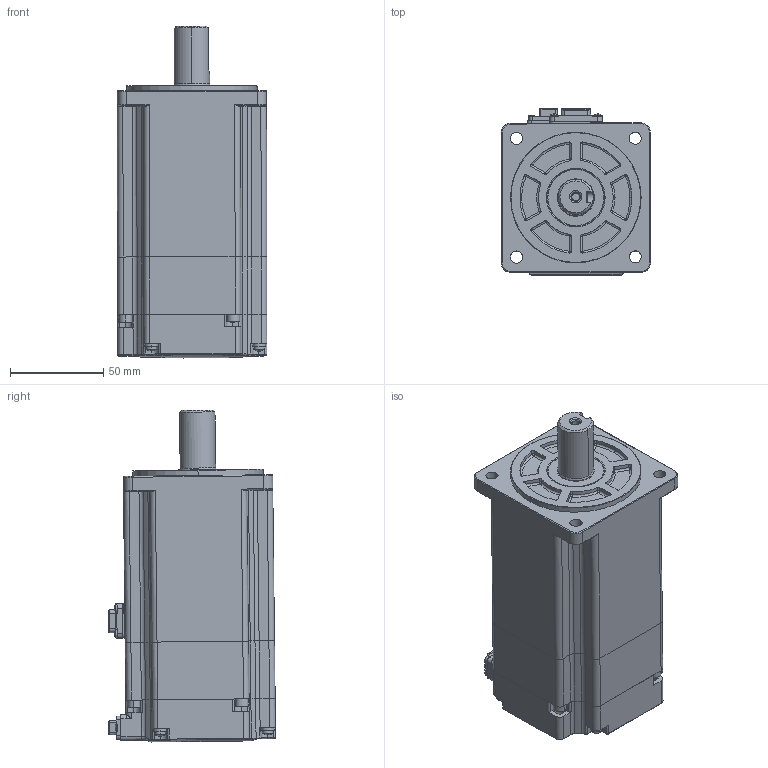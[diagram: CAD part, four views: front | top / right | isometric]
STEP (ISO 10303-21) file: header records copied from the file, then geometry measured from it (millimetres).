
FILE_DESCRIPTION(('FreeCAD Model'),'2;1');
FILE_NAME('Open CASCADE Shape Model','2025-03-17T14:10:22',('Author'),( ''),'Open CASCADE STEP processor 7.6','FreeCAD','Unknown');
FILE_SCHEMA(('AUTOMOTIVE_DESIGN { 1 0 10303 214 1 1 1 1 }'));
Length unit declared in the file: millimetre
Products named in the file (32): PSM6S-80CS30BZ3-21P0; PSM6S-80CS30BZ3-21P001; PSM6S-80CS30BZ3-21P002; PSM6S-80CS30BZ3-21P003; PSM6S-80CS30BZ3-21P004; PSM6S-80CS30BZ3-21P005; PSM6S-80CS30BZ3-21P006; PSM6S-80CS30BZ3-21P007; PSM6S-80CS30BZ3-21P008; PSM6S-80CS30BZ3-21P009; PSM6S-80CS30BZ3-21P010; PSM6S-80CS30BZ3-21P011; PSM6S-80CS30BZ3-21P012; PSM6S-80CS30BZ3-21P013; PSM6S-80CS30BZ3-21P014; PSM6S-80CS30BZ3-21P015; PSM6S-80CS30BZ3-21P016; PSM6S-80CS30BZ3-21P017; PSM6S-80CS30BZ3-21P018; PSM6S-80CS30BZ3-21P019; PSM6S-80CS30BZ3-21P020; PSM6S-80CS30BZ3-21P021; PSM6S-80CS30BZ3-21P022; PSM6S-80CS30BZ3-21P023; PSM6S-80CS30BZ3-21P024; PSM6S-80CS30BZ3-21P025; PSM6S-80CS30BZ3-21P026; PSM6S-80CS30BZ3-21P027; PSM6S-80CS30BZ3-21P028; PSM6S-80CS30BZ3-21P029; PSM6S-80CS30BZ3-21P030; PSM6S-80CS30BZ3-21P031
Assembly tree (31 placements, depth 2):
  PSM6S-80CS30BZ3-21P0
    PSM6S-80CS30BZ3-21P001
    PSM6S-80CS30BZ3-21P002
    PSM6S-80CS30BZ3-21P003
    PSM6S-80CS30BZ3-21P004
    PSM6S-80CS30BZ3-21P005
    PSM6S-80CS30BZ3-21P006
    PSM6S-80CS30BZ3-21P007
    PSM6S-80CS30BZ3-21P008
    PSM6S-80CS30BZ3-21P009
    PSM6S-80CS30BZ3-21P010
    PSM6S-80CS30BZ3-21P011
    PSM6S-80CS30BZ3-21P012
    PSM6S-80CS30BZ3-21P013
    PSM6S-80CS30BZ3-21P014
    PSM6S-80CS30BZ3-21P015
    PSM6S-80CS30BZ3-21P016
    PSM6S-80CS30BZ3-21P017
    PSM6S-80CS30BZ3-21P018
    PSM6S-80CS30BZ3-21P019
    PSM6S-80CS30BZ3-21P020
    PSM6S-80CS30BZ3-21P021
    PSM6S-80CS30BZ3-21P022
    PSM6S-80CS30BZ3-21P023
    PSM6S-80CS30BZ3-21P024
    PSM6S-80CS30BZ3-21P025
    PSM6S-80CS30BZ3-21P026
    PSM6S-80CS30BZ3-21P027
    PSM6S-80CS30BZ3-21P028
    PSM6S-80CS30BZ3-21P029
    PSM6S-80CS30BZ3-21P030
    PSM6S-80CS30BZ3-21P031
Bounding box: 80.25 x 89.61 x 177.99 mm (x, y, z)
Surface area: 66401.3 mm2 (no closed solid volume)
Topology: 0 solids, 31 shells, 864 faces, 2755 edges, 1874 vertices
Faces by surface type: plane 366, cylinder 314, torus 93, sphere 44, cone 25, bspline 18, revolution 4
Entity records: 32193 total; most frequent: CARTESIAN_POINT 6782, DIRECTION 5575, ORIENTED_EDGE 4517, EDGE_CURVE 2734, AXIS2_PLACEMENT_3D 2025, VERTEX_POINT 1874, LINE 1521, VECTOR 1521
